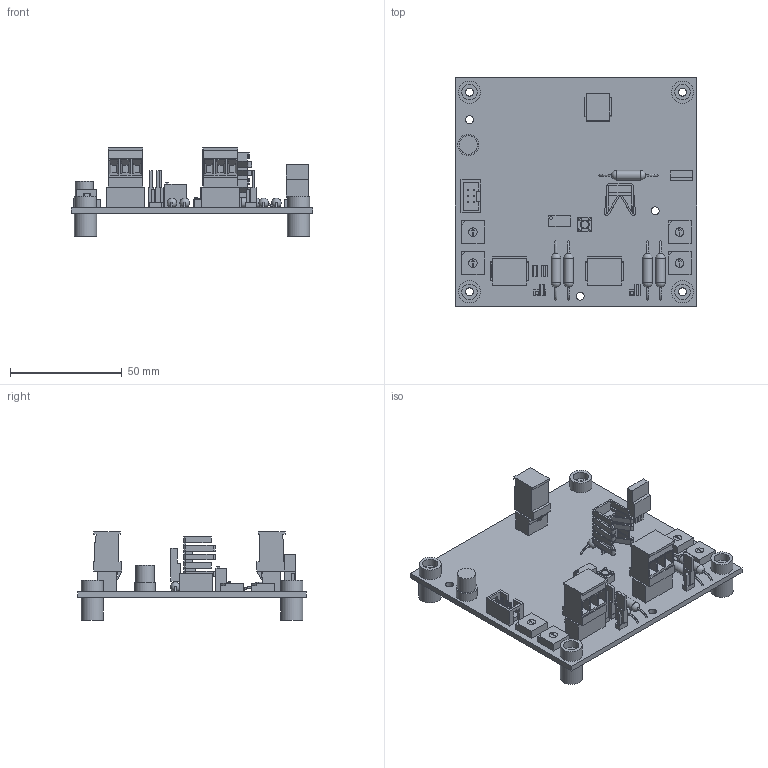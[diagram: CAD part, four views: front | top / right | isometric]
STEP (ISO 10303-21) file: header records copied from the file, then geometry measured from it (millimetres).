
FILE_DESCRIPTION(/* description */ (''),/* implementation_level */ '2;1');
FILE_NAME(/* name */ 'R:\Temp\J. Narvaez\IAN DRAWINGS\001 - Controls\001 - Magnum Controllers\013 - MCS-MODBUS-IO-12\MCS-MODBUS-IO-12 3D.stp',/* time_stamp */ '2022-12-05T08:46:53-05:00',/* author */ ('mjeter'),/* organization */ ('unknown'),/* preprocessor_version */ 'ST-DEVELOPER v19',/* originating_system */ 'Autodesk Inventor 2023',/* authorisation */ '');
FILE_SCHEMA (('AUTOMOTIVE_DESIGN { 1 0 10303 214 3 1 1 }'));
Length unit declared in the file: inch
Products named in the file (1): MCS-MODBUS-IO-12 3D
Bounding box: 107.95 x 101.98 x 39.59 mm (x, y, z)
Volume: 48182.4 mm3; surface area: 45867.5 mm2
Topology: 51 solids, 54 shells, 883 faces, 2191 edges, 1449 vertices
Faces by surface type: plane 746, cylinder 104, sphere 14, bspline 10, cone 9
Full cylindrical faces by diameter (mm): 1.143 x4, 1.27 x1, 3.378 x2, 3.556 x7, 3.81 x9, 4.318 x5, 5.905 x2, 5.906 x2, 6.604 x4, 6.858 x4, 7.175 x3, 7.176 x1, 8.23 x1, 9.398 x1, 9.906 x4, 9.969 x2, 9.97 x2
Entity records: 28497 total; most frequent: CARTESIAN_POINT 7329, ORIENTED_EDGE 4366, DIRECTION 4078, EDGE_CURVE 2186, LINE 1832, VECTOR 1832, VERTEX_POINT 1448, AXIS2_PLACEMENT_3D 1123
